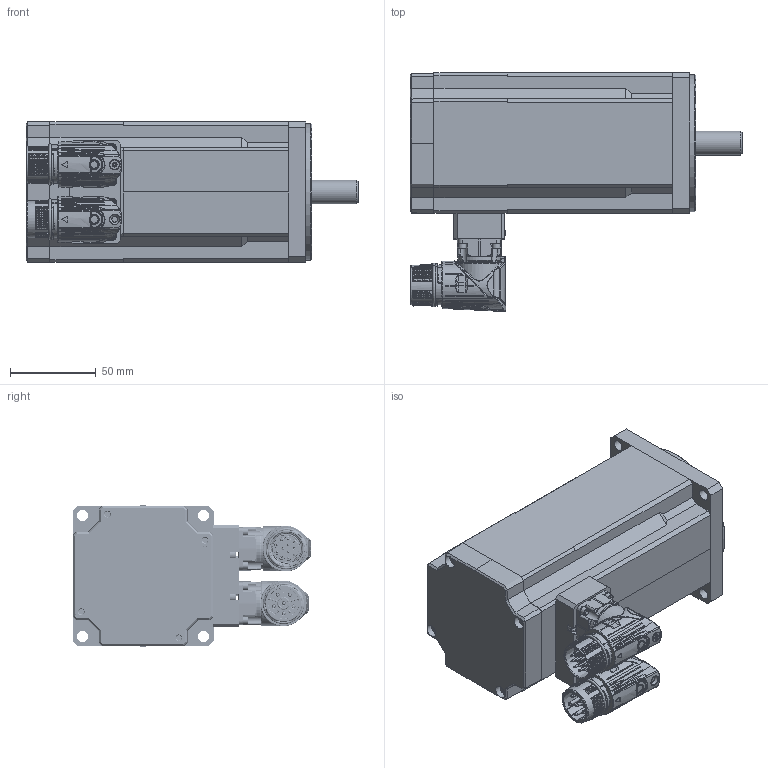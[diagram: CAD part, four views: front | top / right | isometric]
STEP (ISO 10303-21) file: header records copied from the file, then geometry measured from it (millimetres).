
FILE_DESCRIPTION(/* description */ (''),/* implementation_level */ '2;1');
FILE_NAME(/* name */ 'D:\InventorWorkspace2017\CAD\Projekte_EDEM\HLR\Zubehörteile\SMH826003814S2I642.stp',/* time_stamp */ '2019-02-13T12:30:05+01:00',/* author */ ('544672'),/* organization */ (''),/* preprocessor_version */ 'ST-DEVELOPER v16.5',/* originating_system */ 'Autodesk Inventor 2017',/* authorisation */ '');
FILE_SCHEMA (('AUTOMOTIVE_DESIGN { 1 0 10303 214 3 1 1 }'));
Products named in the file (1): SMH826003814S2I642
Bounding box: 194 x 139.55 x 82.42 mm (x, y, z)
Volume: 474769.2 mm3; surface area: 173087.1 mm2
Topology: 3 solids, 34 shells, 4400 faces, 11162 edges, 6851 vertices
Faces by surface type: bspline 1333, cylinder 1318, plane 959, torus 439, cone 226, sphere 125
Full cylindrical faces by diameter (mm): 0.8 x7, 1 x14, 1.18 x12, 1.2 x12, 1.4 x4, 1.9 x12, 2 x6, 2.15 x6, 2.2 x12, 2.459 x8, 3 x17, 3.1 x8, 3.2 x1, 3.242 x4, 3.5 x4, 4 x7, 4.134 x4, 4.5 x18, 5.5 x6, 5.9 x2, 6.5 x4, 7.5 x8, 14 x1, 17.4 x1, 19.16 x1, 20 x1, 21.6 x1, 22.5 x1, 23.5 x1, 24.4 x1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
Entity records: 260492 total; most frequent: CARTESIAN_POINT 158582, ORIENTED_EDGE 21102, DIRECTION 19085, EDGE_CURVE 10551, AXIS2_PLACEMENT_3D 8088, VERTEX_POINT 6679, EDGE_LOOP 4924, ADVANCED_FACE 4397
